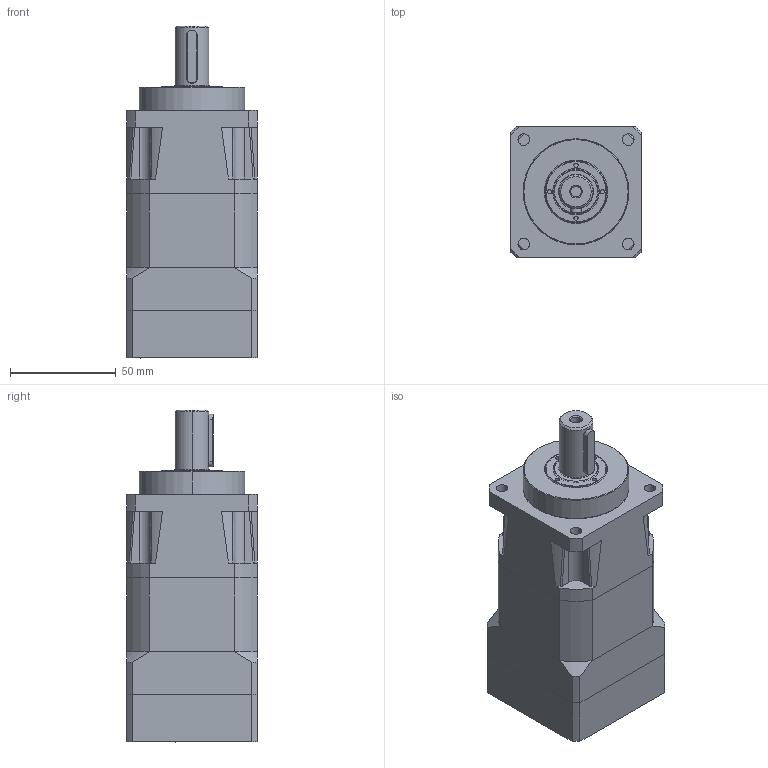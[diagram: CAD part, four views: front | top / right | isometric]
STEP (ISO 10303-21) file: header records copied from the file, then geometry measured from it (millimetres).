
FILE_DESCRIPTION((''),'2;1');
FILE_NAME('PS60-XXX-000-X2_ASM','2009-03-30T',('ata7311'),(''),'PRO/ENGINEER BY PARAMETRIC TECHNOLOGY CORPORATION, 2006300','PRO/ENGINEER BY PARAMETRIC TECHNOLOGY CORPORATION, 2006300','');
FILE_SCHEMA(('CONFIG_CONTROL_DESIGN'));
Products named in the file (15): 13388XXX; 13393000; HD202-0006; 10087128; 13386XXX_ASM; 13393001; 13394000; 13389XXX; 12292000; 13120000; M5X20; 13384XXX_ASM; 13132003; M4X20; PS60-XXX-000-X2_ASM
Assembly tree (18 placements, depth 3):
  PS60-XXX-000-X2_ASM
    13386XXX_ASM
      13388XXX
      13393000
      HD202-0006
      10087128
    13393001
    13384XXX_ASM
      13394000
      13389XXX
      12292000  x2
      13120000
      M5X20
    13132003
    M4X20  x4
Bounding box: 62 x 62 x 157.3 mm (x, y, z)
Volume: 236750.8 mm3; surface area: 92416.6 mm2
Topology: 16 solids, 16 shells, 445 faces, 1066 edges, 697 vertices
Faces by surface type: cylinder 189, plane 186, cone 52, torus 10, bspline 8
Entity records: 12241 total; most frequent: CARTESIAN_POINT 2780, DIRECTION 2046, ORIENTED_EDGE 1832, EDGE_CURVE 916, AXIS2_PLACEMENT_3D 818, VERTEX_POINT 599, EDGE_LOOP 445, VECTOR 410
